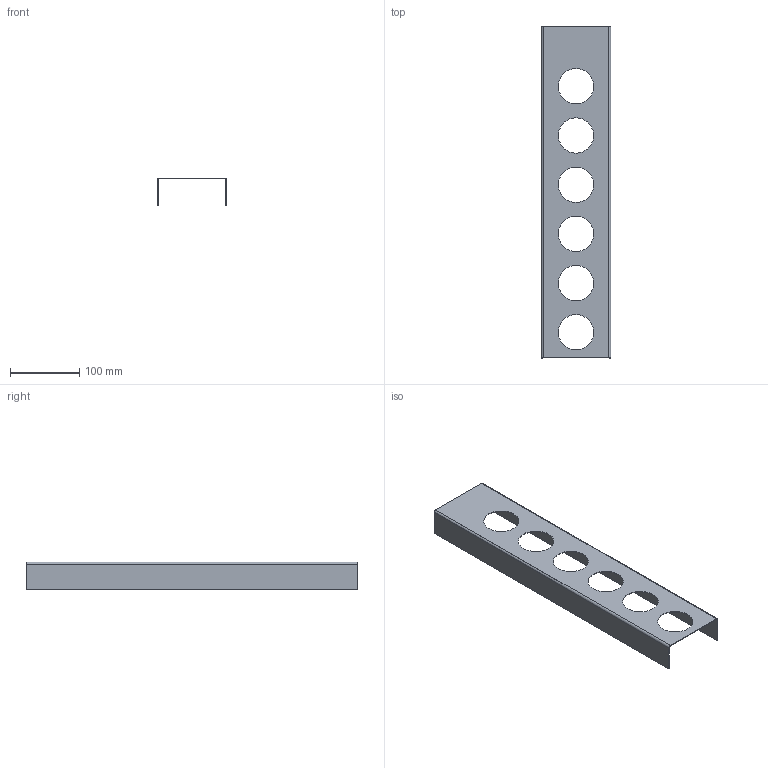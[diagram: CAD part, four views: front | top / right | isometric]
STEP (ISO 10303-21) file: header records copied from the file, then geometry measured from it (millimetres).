
FILE_DESCRIPTION (( 'STEP AP214' ), '1' );
FILE_NAME ('Gewuerzeinsatz_68306-01.STEP', '2010-10-25T13:31:22', ( 'grass' ), ( '' ), 'SwSTEP 2.0', 'SolidWorks 2010', '' );
FILE_SCHEMA (( 'AUTOMOTIVE_DESIGN' ));
Length unit declared in the file: millimetre
Products named in the file (1): Gewuerzeinsatz_68306-01
Bounding box: 100 x 479 x 40 mm (x, y, z)
Volume: 71977.1 mm3; surface area: 146225.3 mm2
Topology: 1 solids, 1 shells, 26 faces, 72 edges, 48 vertices
Faces by surface type: cylinder 16, plane 10
Entity records: 906 total; most frequent: DIRECTION 158, CARTESIAN_POINT 147, ORIENTED_EDGE 144, EDGE_CURVE 72, AXIS2_PLACEMENT_3D 59, VERTEX_POINT 48, LINE 40, VECTOR 40
